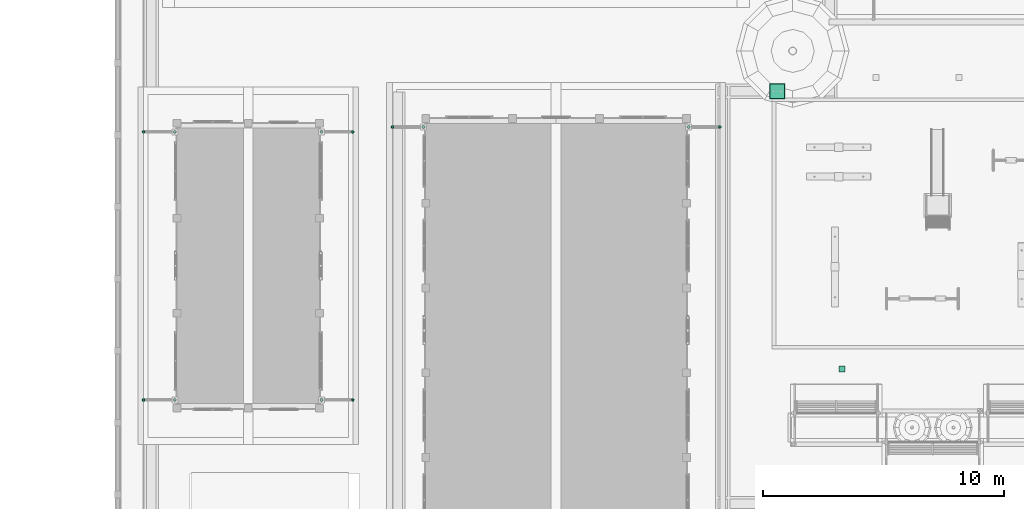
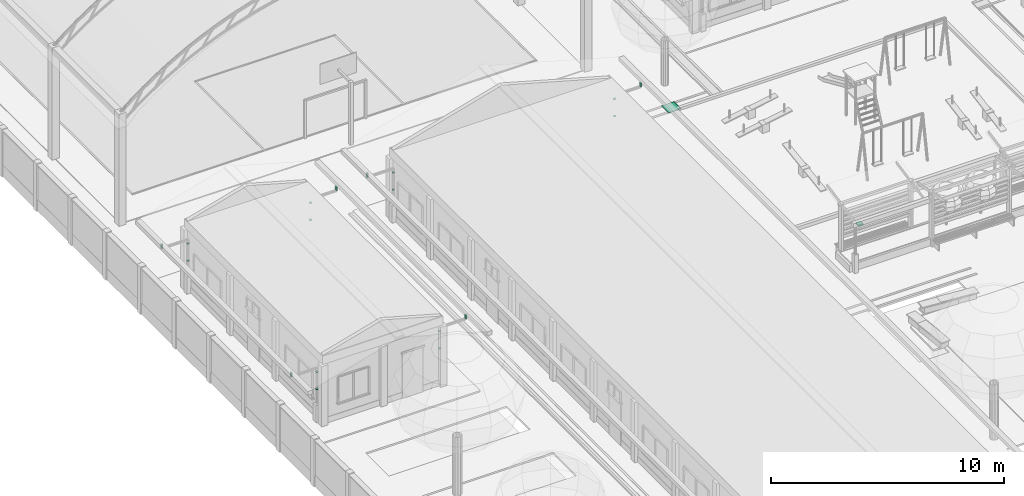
# One storey, part 125 of 177: 18 pipe segments, 2 distribution chamber elements, 1 waste terminal.
"""IFC4 building model written with IfcOpenShell, lengths in metres."""

from ifc_helpers import new_model, si_unit, origin, origin_with_axes, place, context, subcontext, project, spatial, triangles, element, save


model = new_model("IFC4")

# Units and contexts
model_context = context("Model", 3, precision=1e-05, world=origin_with_axes())
body_context = subcontext(model_context, "Body", "Model", "MODEL_VIEW")
ifc_project = project(units=[si_unit("LENGTHUNIT", "METRE"), si_unit("AREAUNIT", "SQUARE_METRE"), si_unit("VOLUMEUNIT", "CUBIC_METRE"), si_unit("PLANEANGLEUNIT", "RADIAN")], contexts=[model_context])

# Site, building, storey
site_placement = place(None, origin_with_axes())
site = spatial("IfcSite", under=ifc_project, at=site_placement, Name="Predio Los Mangos - Morales, San Martín", CompositionType="ELEMENT")
building_placement = place(site_placement, origin())
building = spatial("IfcBuilding", under=site, at=building_placement, Name="Hogar de Refugio Temporal", CompositionType="ELEMENT")
storey_placement = place(building_placement, origin())
storey = spatial("IfcBuildingStorey", under=building, at=storey_placement, Name="NIVEL 1 (NPT +0.00)", CompositionType="ELEMENT", Elevation=0.0)

# Pipe segments
pipe_segment_1_placement = place(storey_placement, origin())
element("IfcPipeSegment", 1, at=pipe_segment_1_placement, inside=storey, Name="montante_boquilla", ObjectType="Montante PVC 4\"", PredefinedType="RIGIDSEGMENT", context=body_context, shape_type="Tessellation", body=[
    triangles([(12.42, 86.905, 3.13), (12.42, 86.905, 2.91), (12.3925, 86.8976, 3.13), (12.3925, 86.8976, 2.91), (12.3724, 86.8775, 3.13), (12.3724, 86.8775, 2.91), (12.365, 86.85, 3.13), (12.365, 86.85, 2.91), (12.3724, 86.8225, 3.13), (12.3724, 86.8225, 2.91), (12.3925, 86.8024, 3.13), (12.3925, 86.8024, 2.91), (12.42, 86.795, 3.13), (12.42, 86.795, 2.91), (12.4475, 86.8024, 3.13), (12.4475, 86.8024, 2.91), (12.4676, 86.8225, 3.13), (12.4676, 86.8225, 2.91), (12.475, 86.85, 3.13), (12.475, 86.85, 2.91), (12.4676, 86.8775, 3.13), (12.4676, 86.8775, 2.91), (12.4475, 86.8976, 3.13), (12.4475, 86.8976, 2.91)], [[1, 2, 4], [1, 4, 3], [3, 4, 6], [3, 6, 5], [5, 6, 8], [5, 8, 7], [7, 8, 10], [7, 10, 9], [9, 10, 12], [9, 12, 11], [11, 12, 14], [11, 14, 13], [13, 14, 16], [13, 16, 15], [15, 16, 18], [15, 18, 17], [17, 18, 20], [17, 20, 19], [19, 20, 22], [19, 22, 21], [6, 4, 2], [2, 24, 22], [22, 20, 18], [18, 16, 14], [14, 12, 10], [10, 8, 6], [6, 2, 22], [22, 18, 14], [14, 10, 6], [22, 14, 6], [21, 22, 24], [21, 24, 23], [23, 24, 2], [23, 2, 1], [23, 1, 3], [3, 5, 7], [7, 9, 11], [11, 13, 15], [15, 17, 19], [19, 21, 23], [23, 3, 7], [7, 11, 15], [15, 19, 23], [7, 15, 23]]),
])
pipe_segment_2_placement = place(storey_placement, origin())
element("IfcPipeSegment", 2, at=pipe_segment_2_placement, inside=storey, Name="montante_abrazadera", ObjectType="Montante PVC 4\"", PredefinedType="RIGIDSEGMENT", context=body_context, shape_type="Tessellation", body=[
    triangles([(13.71, 86.788, 1.8), (13.71, 86.788, 1.84), (13.679, 86.7963, 1.8), (13.679, 86.7963, 1.84), (13.6563, 86.819, 1.8), (13.6563, 86.819, 1.84), (13.648, 86.85, 1.8), (13.648, 86.85, 1.84), (13.6563, 86.881, 1.8), (13.6563, 86.881, 1.84), (13.679, 86.9037, 1.8), (13.679, 86.9037, 1.84), (13.71, 86.912, 1.8), (13.71, 86.912, 1.84), (13.741, 86.9037, 1.8), (13.741, 86.9037, 1.84), (13.7637, 86.881, 1.8), (13.7637, 86.881, 1.84), (13.772, 86.85, 1.8), (13.772, 86.85, 1.84), (13.7637, 86.819, 1.8), (13.7637, 86.819, 1.84), (13.741, 86.7963, 1.8), (13.741, 86.7963, 1.84)], [[1, 2, 4], [1, 4, 3], [3, 4, 6], [3, 6, 5], [5, 6, 8], [5, 8, 7], [7, 8, 10], [7, 10, 9], [9, 10, 12], [9, 12, 11], [11, 12, 14], [11, 14, 13], [13, 14, 16], [13, 16, 15], [15, 16, 18], [15, 18, 17], [17, 18, 20], [17, 20, 19], [19, 20, 22], [19, 22, 21], [6, 4, 2], [2, 24, 22], [22, 20, 18], [18, 16, 14], [14, 12, 10], [10, 8, 6], [6, 2, 22], [22, 18, 14], [14, 10, 6], [22, 14, 6], [21, 22, 24], [21, 24, 23], [23, 24, 2], [23, 2, 1], [23, 1, 3], [3, 5, 7], [7, 9, 11], [11, 13, 15], [15, 17, 19], [19, 21, 23], [23, 3, 7], [7, 11, 15], [15, 19, 23], [7, 15, 23]]),
])
pipe_segment_3_placement = place(storey_placement, origin())
element("IfcPipeSegment", 3, at=pipe_segment_3_placement, inside=storey, Name="montante_abrazadera", ObjectType="Montante PVC 4\"", PredefinedType="RIGIDSEGMENT", context=body_context, shape_type="Tessellation", body=[
    triangles([(13.71, 86.788, 2.7), (13.71, 86.788, 2.74), (13.679, 86.7963, 2.7), (13.679, 86.7963, 2.74), (13.6563, 86.819, 2.7), (13.6563, 86.819, 2.74), (13.648, 86.85, 2.7), (13.648, 86.85, 2.74), (13.6563, 86.881, 2.7), (13.6563, 86.881, 2.74), (13.679, 86.9037, 2.7), (13.679, 86.9037, 2.74), (13.71, 86.912, 2.7), (13.71, 86.912, 2.74), (13.741, 86.9037, 2.7), (13.741, 86.9037, 2.74), (13.7637, 86.881, 2.7), (13.7637, 86.881, 2.74), (13.772, 86.85, 2.7), (13.772, 86.85, 2.74), (13.7637, 86.819, 2.7), (13.7637, 86.819, 2.74), (13.741, 86.7963, 2.7), (13.741, 86.7963, 2.74)], [[1, 2, 4], [1, 4, 3], [3, 4, 6], [3, 6, 5], [5, 6, 8], [5, 8, 7], [7, 8, 10], [7, 10, 9], [9, 10, 12], [9, 12, 11], [11, 12, 14], [11, 14, 13], [13, 14, 16], [13, 16, 15], [15, 16, 18], [15, 18, 17], [17, 18, 20], [17, 20, 19], [19, 20, 22], [19, 22, 21], [6, 4, 2], [2, 24, 22], [22, 20, 18], [18, 16, 14], [14, 12, 10], [10, 8, 6], [6, 2, 22], [22, 18, 14], [14, 10, 6], [22, 14, 6], [21, 22, 24], [21, 24, 23], [23, 24, 2], [23, 2, 1], [23, 1, 3], [3, 5, 7], [7, 9, 11], [11, 13, 15], [15, 17, 19], [19, 21, 23], [23, 3, 7], [7, 11, 15], [15, 19, 23], [7, 15, 23]]),
])
pipe_segment_4_placement = place(storey_placement, origin())
element("IfcPipeSegment", 4, at=pipe_segment_4_placement, inside=storey, Name="montante_boquilla", ObjectType="Montante PVC 4\"", PredefinedType="RIGIDSEGMENT", context=body_context, shape_type="Tessellation", body=[
    triangles([(25.98, 86.905, 3.13), (25.98, 86.905, 2.91), (25.9525, 86.8976, 3.13), (25.9525, 86.8976, 2.91), (25.9324, 86.8775, 3.13), (25.9324, 86.8775, 2.91), (25.925, 86.85, 3.13), (25.925, 86.85, 2.91), (25.9324, 86.8225, 3.13), (25.9324, 86.8225, 2.91), (25.9525, 86.8024, 3.13), (25.9525, 86.8024, 2.91), (25.98, 86.795, 3.13), (25.98, 86.795, 2.91), (26.0075, 86.8024, 3.13), (26.0075, 86.8024, 2.91), (26.0276, 86.8225, 3.13), (26.0276, 86.8225, 2.91), (26.035, 86.85, 3.13), (26.035, 86.85, 2.91), (26.0276, 86.8775, 3.13), (26.0276, 86.8775, 2.91), (26.0075, 86.8976, 3.13), (26.0075, 86.8976, 2.91)], [[1, 2, 4], [1, 4, 3], [3, 4, 6], [3, 6, 5], [5, 6, 8], [5, 8, 7], [7, 8, 10], [7, 10, 9], [9, 10, 12], [9, 12, 11], [11, 12, 14], [11, 14, 13], [13, 14, 16], [13, 16, 15], [15, 16, 18], [15, 18, 17], [17, 18, 20], [17, 20, 19], [19, 20, 22], [19, 22, 21], [6, 4, 2], [2, 24, 22], [22, 20, 18], [18, 16, 14], [14, 12, 10], [10, 8, 6], [6, 2, 22], [22, 18, 14], [14, 10, 6], [22, 14, 6], [21, 22, 24], [21, 24, 23], [23, 24, 2], [23, 2, 1], [23, 1, 3], [3, 5, 7], [7, 9, 11], [11, 13, 15], [15, 17, 19], [19, 21, 23], [23, 3, 7], [7, 11, 15], [15, 19, 23], [7, 15, 23]]),
])
pipe_segment_5_placement = place(storey_placement, origin())
element("IfcPipeSegment", 5, at=pipe_segment_5_placement, inside=storey, Name="montante_abrazadera", ObjectType="Montante PVC 4\"", PredefinedType="RIGIDSEGMENT", context=body_context, shape_type="Tessellation", body=[
    triangles([(24.69, 86.788, 1.8), (24.69, 86.788, 1.84), (24.659, 86.7963, 1.8), (24.659, 86.7963, 1.84), (24.6363, 86.819, 1.8), (24.6363, 86.819, 1.84), (24.628, 86.85, 1.8), (24.628, 86.85, 1.84), (24.6363, 86.881, 1.8), (24.6363, 86.881, 1.84), (24.659, 86.9037, 1.8), (24.659, 86.9037, 1.84), (24.69, 86.912, 1.8), (24.69, 86.912, 1.84), (24.721, 86.9037, 1.8), (24.721, 86.9037, 1.84), (24.7437, 86.881, 1.8), (24.7437, 86.881, 1.84), (24.752, 86.85, 1.8), (24.752, 86.85, 1.84), (24.7437, 86.819, 1.8), (24.7437, 86.819, 1.84), (24.721, 86.7963, 1.8), (24.721, 86.7963, 1.84)], [[1, 2, 4], [1, 4, 3], [3, 4, 6], [3, 6, 5], [5, 6, 8], [5, 8, 7], [7, 8, 10], [7, 10, 9], [9, 10, 12], [9, 12, 11], [11, 12, 14], [11, 14, 13], [13, 14, 16], [13, 16, 15], [15, 16, 18], [15, 18, 17], [17, 18, 20], [17, 20, 19], [19, 20, 22], [19, 22, 21], [6, 4, 2], [2, 24, 22], [22, 20, 18], [18, 16, 14], [14, 12, 10], [10, 8, 6], [6, 2, 22], [22, 18, 14], [14, 10, 6], [22, 14, 6], [21, 22, 24], [21, 24, 23], [23, 24, 2], [23, 2, 1], [23, 1, 3], [3, 5, 7], [7, 9, 11], [11, 13, 15], [15, 17, 19], [19, 21, 23], [23, 3, 7], [7, 11, 15], [15, 19, 23], [7, 15, 23]]),
])
pipe_segment_6_placement = place(storey_placement, origin())
element("IfcPipeSegment", 6, at=pipe_segment_6_placement, inside=storey, Name="montante_abrazadera", ObjectType="Montante PVC 4\"", PredefinedType="RIGIDSEGMENT", context=body_context, shape_type="Tessellation", body=[
    triangles([(24.69, 86.788, 2.7), (24.69, 86.788, 2.74), (24.659, 86.7963, 2.7), (24.659, 86.7963, 2.74), (24.6363, 86.819, 2.7), (24.6363, 86.819, 2.74), (24.628, 86.85, 2.7), (24.628, 86.85, 2.74), (24.6363, 86.881, 2.7), (24.6363, 86.881, 2.74), (24.659, 86.9037, 2.7), (24.659, 86.9037, 2.74), (24.69, 86.912, 2.7), (24.69, 86.912, 2.74), (24.721, 86.9037, 2.7), (24.721, 86.9037, 2.74), (24.7437, 86.881, 2.7), (24.7437, 86.881, 2.74), (24.752, 86.85, 2.7), (24.752, 86.85, 2.74), (24.7437, 86.819, 2.7), (24.7437, 86.819, 2.74), (24.721, 86.7963, 2.7), (24.721, 86.7963, 2.74)], [[1, 2, 4], [1, 4, 3], [3, 4, 6], [3, 6, 5], [5, 6, 8], [5, 8, 7], [7, 8, 10], [7, 10, 9], [9, 10, 12], [9, 12, 11], [11, 12, 14], [11, 14, 13], [13, 14, 16], [13, 16, 15], [15, 16, 18], [15, 18, 17], [17, 18, 20], [17, 20, 19], [19, 20, 22], [19, 22, 21], [6, 4, 2], [2, 24, 22], [22, 20, 18], [18, 16, 14], [14, 12, 10], [10, 8, 6], [6, 2, 22], [22, 18, 14], [14, 10, 6], [22, 14, 6], [21, 22, 24], [21, 24, 23], [23, 24, 2], [23, 2, 1], [23, 1, 3], [3, 5, 7], [7, 9, 11], [11, 13, 15], [15, 17, 19], [19, 21, 23], [23, 3, 7], [7, 11, 15], [15, 19, 23], [7, 15, 23]]),
])
pipe_segment_7_placement = place(storey_placement, origin())
element("IfcPipeSegment", 7, at=pipe_segment_7_placement, inside=storey, Name="montante_boquilla", ObjectType="Montante PVC 4\"", PredefinedType="RIGIDSEGMENT", context=body_context, shape_type="Tessellation", body=[
    triangles([(2.12, 75.605, 3.13), (2.12, 75.605, 2.91), (2.0925, 75.5976, 3.13), (2.0925, 75.5976, 2.91), (2.0724, 75.5775, 3.13), (2.0724, 75.5775, 2.91), (2.065, 75.55, 3.13), (2.065, 75.55, 2.91), (2.0724, 75.5225, 3.13), (2.0724, 75.5225, 2.91), (2.0925, 75.5024, 3.13), (2.0925, 75.5024, 2.91), (2.12, 75.495, 3.13), (2.12, 75.495, 2.91), (2.1475, 75.5024, 3.13), (2.1475, 75.5024, 2.91), (2.1676, 75.5225, 3.13), (2.1676, 75.5225, 2.91), (2.175, 75.55, 3.13), (2.175, 75.55, 2.91), (2.1676, 75.5775, 3.13), (2.1676, 75.5775, 2.91), (2.1475, 75.5976, 3.13), (2.1475, 75.5976, 2.91)], [[1, 2, 4], [1, 4, 3], [3, 4, 6], [3, 6, 5], [5, 6, 8], [5, 8, 7], [7, 8, 10], [7, 10, 9], [9, 10, 12], [9, 12, 11], [11, 12, 14], [11, 14, 13], [13, 14, 16], [13, 16, 15], [15, 16, 18], [15, 18, 17], [17, 18, 20], [17, 20, 19], [19, 20, 22], [19, 22, 21], [6, 4, 2], [2, 24, 22], [22, 20, 18], [18, 16, 14], [14, 12, 10], [10, 8, 6], [6, 2, 22], [22, 18, 14], [14, 10, 6], [22, 14, 6], [21, 22, 24], [21, 24, 23], [23, 24, 2], [23, 2, 1], [23, 1, 3], [3, 5, 7], [7, 9, 11], [11, 13, 15], [15, 17, 19], [19, 21, 23], [23, 3, 7], [7, 11, 15], [15, 19, 23], [7, 15, 23]]),
])
pipe_segment_8_placement = place(storey_placement, origin())
element("IfcPipeSegment", 8, at=pipe_segment_8_placement, inside=storey, Name="montante_abrazadera", ObjectType="Montante PVC 4\"", PredefinedType="RIGIDSEGMENT", context=body_context, shape_type="Tessellation", body=[
    triangles([(3.41, 75.488, 1.8), (3.41, 75.488, 1.84), (3.379, 75.4963, 1.8), (3.379, 75.4963, 1.84), (3.3563, 75.519, 1.8), (3.3563, 75.519, 1.84), (3.348, 75.55, 1.8), (3.348, 75.55, 1.84), (3.3563, 75.581, 1.8), (3.3563, 75.581, 1.84), (3.379, 75.6037, 1.8), (3.379, 75.6037, 1.84), (3.41, 75.612, 1.8), (3.41, 75.612, 1.84), (3.441, 75.6037, 1.8), (3.441, 75.6037, 1.84), (3.4637, 75.581, 1.8), (3.4637, 75.581, 1.84), (3.472, 75.55, 1.8), (3.472, 75.55, 1.84), (3.4637, 75.519, 1.8), (3.4637, 75.519, 1.84), (3.441, 75.4963, 1.8), (3.441, 75.4963, 1.84)], [[1, 2, 4], [1, 4, 3], [3, 4, 6], [3, 6, 5], [5, 6, 8], [5, 8, 7], [7, 8, 10], [7, 10, 9], [9, 10, 12], [9, 12, 11], [11, 12, 14], [11, 14, 13], [13, 14, 16], [13, 16, 15], [15, 16, 18], [15, 18, 17], [17, 18, 20], [17, 20, 19], [19, 20, 22], [19, 22, 21], [6, 4, 2], [2, 24, 22], [22, 20, 18], [18, 16, 14], [14, 12, 10], [10, 8, 6], [6, 2, 22], [22, 18, 14], [14, 10, 6], [22, 14, 6], [21, 22, 24], [21, 24, 23], [23, 24, 2], [23, 2, 1], [23, 1, 3], [3, 5, 7], [7, 9, 11], [11, 13, 15], [15, 17, 19], [19, 21, 23], [23, 3, 7], [7, 11, 15], [15, 19, 23], [7, 15, 23]]),
])
pipe_segment_9_placement = place(storey_placement, origin())
element("IfcPipeSegment", 9, at=pipe_segment_9_placement, inside=storey, Name="montante_abrazadera", ObjectType="Montante PVC 4\"", PredefinedType="RIGIDSEGMENT", context=body_context, shape_type="Tessellation", body=[
    triangles([(3.41, 75.488, 2.7), (3.41, 75.488, 2.74), (3.379, 75.4963, 2.7), (3.379, 75.4963, 2.74), (3.3563, 75.519, 2.7), (3.3563, 75.519, 2.74), (3.348, 75.55, 2.7), (3.348, 75.55, 2.74), (3.3563, 75.581, 2.7), (3.3563, 75.581, 2.74), (3.379, 75.6037, 2.7), (3.379, 75.6037, 2.74), (3.41, 75.612, 2.7), (3.41, 75.612, 2.74), (3.441, 75.6037, 2.7), (3.441, 75.6037, 2.74), (3.4637, 75.581, 2.7), (3.4637, 75.581, 2.74), (3.472, 75.55, 2.7), (3.472, 75.55, 2.74), (3.4637, 75.519, 2.7), (3.4637, 75.519, 2.74), (3.441, 75.4963, 2.7), (3.441, 75.4963, 2.74)], [[1, 2, 4], [1, 4, 3], [3, 4, 6], [3, 6, 5], [5, 6, 8], [5, 8, 7], [7, 8, 10], [7, 10, 9], [9, 10, 12], [9, 12, 11], [11, 12, 14], [11, 14, 13], [13, 14, 16], [13, 16, 15], [15, 16, 18], [15, 18, 17], [17, 18, 20], [17, 20, 19], [19, 20, 22], [19, 22, 21], [6, 4, 2], [2, 24, 22], [22, 20, 18], [18, 16, 14], [14, 12, 10], [10, 8, 6], [6, 2, 22], [22, 18, 14], [14, 10, 6], [22, 14, 6], [21, 22, 24], [21, 24, 23], [23, 24, 2], [23, 2, 1], [23, 1, 3], [3, 5, 7], [7, 9, 11], [11, 13, 15], [15, 17, 19], [19, 21, 23], [23, 3, 7], [7, 11, 15], [15, 19, 23], [7, 15, 23]]),
])
pipe_segment_10_placement = place(storey_placement, origin())
element("IfcPipeSegment", 10, at=pipe_segment_10_placement, inside=storey, Name="montante_boquilla", ObjectType="Montante PVC 4\"", PredefinedType="RIGIDSEGMENT", context=body_context, shape_type="Tessellation", body=[
    triangles([(2.12, 86.705, 3.13), (2.12, 86.705, 2.91), (2.0925, 86.6976, 3.13), (2.0925, 86.6976, 2.91), (2.0724, 86.6775, 3.13), (2.0724, 86.6775, 2.91), (2.065, 86.65, 3.13), (2.065, 86.65, 2.91), (2.0724, 86.6225, 3.13), (2.0724, 86.6225, 2.91), (2.0925, 86.6024, 3.13), (2.0925, 86.6024, 2.91), (2.12, 86.595, 3.13), (2.12, 86.595, 2.91), (2.1475, 86.6024, 3.13), (2.1475, 86.6024, 2.91), (2.1676, 86.6225, 3.13), (2.1676, 86.6225, 2.91), (2.175, 86.65, 3.13), (2.175, 86.65, 2.91), (2.1676, 86.6775, 3.13), (2.1676, 86.6775, 2.91), (2.1475, 86.6976, 3.13), (2.1475, 86.6976, 2.91)], [[1, 2, 4], [1, 4, 3], [3, 4, 6], [3, 6, 5], [5, 6, 8], [5, 8, 7], [7, 8, 10], [7, 10, 9], [9, 10, 12], [9, 12, 11], [11, 12, 14], [11, 14, 13], [13, 14, 16], [13, 16, 15], [15, 16, 18], [15, 18, 17], [17, 18, 20], [17, 20, 19], [19, 20, 22], [19, 22, 21], [6, 4, 2], [2, 24, 22], [22, 20, 18], [18, 16, 14], [14, 12, 10], [10, 8, 6], [6, 2, 22], [22, 18, 14], [14, 10, 6], [22, 14, 6], [21, 22, 24], [21, 24, 23], [23, 24, 2], [23, 2, 1], [23, 1, 3], [3, 5, 7], [7, 9, 11], [11, 13, 15], [15, 17, 19], [19, 21, 23], [23, 3, 7], [7, 11, 15], [15, 19, 23], [7, 15, 23]]),
])
pipe_segment_11_placement = place(storey_placement, origin())
element("IfcPipeSegment", 11, at=pipe_segment_11_placement, inside=storey, Name="montante_abrazadera", ObjectType="Montante PVC 4\"", PredefinedType="RIGIDSEGMENT", context=body_context, shape_type="Tessellation", body=[
    triangles([(3.41, 86.588, 1.8), (3.41, 86.588, 1.84), (3.379, 86.5963, 1.8), (3.379, 86.5963, 1.84), (3.3563, 86.619, 1.8), (3.3563, 86.619, 1.84), (3.348, 86.65, 1.8), (3.348, 86.65, 1.84), (3.3563, 86.681, 1.8), (3.3563, 86.681, 1.84), (3.379, 86.7037, 1.8), (3.379, 86.7037, 1.84), (3.41, 86.712, 1.8), (3.41, 86.712, 1.84), (3.441, 86.7037, 1.8), (3.441, 86.7037, 1.84), (3.4637, 86.681, 1.8), (3.4637, 86.681, 1.84), (3.472, 86.65, 1.8), (3.472, 86.65, 1.84), (3.4637, 86.619, 1.8), (3.4637, 86.619, 1.84), (3.441, 86.5963, 1.8), (3.441, 86.5963, 1.84)], [[1, 2, 4], [1, 4, 3], [3, 4, 6], [3, 6, 5], [5, 6, 8], [5, 8, 7], [7, 8, 10], [7, 10, 9], [9, 10, 12], [9, 12, 11], [11, 12, 14], [11, 14, 13], [13, 14, 16], [13, 16, 15], [15, 16, 18], [15, 18, 17], [17, 18, 20], [17, 20, 19], [19, 20, 22], [19, 22, 21], [6, 4, 2], [2, 24, 22], [22, 20, 18], [18, 16, 14], [14, 12, 10], [10, 8, 6], [6, 2, 22], [22, 18, 14], [14, 10, 6], [22, 14, 6], [21, 22, 24], [21, 24, 23], [23, 24, 2], [23, 2, 1], [23, 1, 3], [3, 5, 7], [7, 9, 11], [11, 13, 15], [15, 17, 19], [19, 21, 23], [23, 3, 7], [7, 11, 15], [15, 19, 23], [7, 15, 23]]),
])
pipe_segment_12_placement = place(storey_placement, origin())
element("IfcPipeSegment", 12, at=pipe_segment_12_placement, inside=storey, Name="montante_abrazadera", ObjectType="Montante PVC 4\"", PredefinedType="RIGIDSEGMENT", context=body_context, shape_type="Tessellation", body=[
    triangles([(3.41, 86.588, 2.7), (3.41, 86.588, 2.74), (3.379, 86.5963, 2.7), (3.379, 86.5963, 2.74), (3.3563, 86.619, 2.7), (3.3563, 86.619, 2.74), (3.348, 86.65, 2.7), (3.348, 86.65, 2.74), (3.3563, 86.681, 2.7), (3.3563, 86.681, 2.74), (3.379, 86.7037, 2.7), (3.379, 86.7037, 2.74), (3.41, 86.712, 2.7), (3.41, 86.712, 2.74), (3.441, 86.7037, 2.7), (3.441, 86.7037, 2.74), (3.4637, 86.681, 2.7), (3.4637, 86.681, 2.74), (3.472, 86.65, 2.7), (3.472, 86.65, 2.74), (3.4637, 86.619, 2.7), (3.4637, 86.619, 2.74), (3.441, 86.5963, 2.7), (3.441, 86.5963, 2.74)], [[1, 2, 4], [1, 4, 3], [3, 4, 6], [3, 6, 5], [5, 6, 8], [5, 8, 7], [7, 8, 10], [7, 10, 9], [9, 10, 12], [9, 12, 11], [11, 12, 14], [11, 14, 13], [13, 14, 16], [13, 16, 15], [15, 16, 18], [15, 18, 17], [17, 18, 20], [17, 20, 19], [19, 20, 22], [19, 22, 21], [6, 4, 2], [2, 24, 22], [22, 20, 18], [18, 16, 14], [14, 12, 10], [10, 8, 6], [6, 2, 22], [22, 18, 14], [14, 10, 6], [22, 14, 6], [21, 22, 24], [21, 24, 23], [23, 24, 2], [23, 2, 1], [23, 1, 3], [3, 5, 7], [7, 9, 11], [11, 13, 15], [15, 17, 19], [19, 21, 23], [23, 3, 7], [7, 11, 15], [15, 19, 23], [7, 15, 23]]),
])
pipe_segment_13_placement = place(storey_placement, origin())
element("IfcPipeSegment", 13, at=pipe_segment_13_placement, inside=storey, Name="montante_boquilla", ObjectType="Montante PVC 4\"", PredefinedType="RIGIDSEGMENT", context=body_context, shape_type="Tessellation", body=[
    triangles([(10.78, 75.605, 3.13), (10.78, 75.605, 2.91), (10.7525, 75.5976, 3.13), (10.7525, 75.5976, 2.91), (10.7324, 75.5775, 3.13), (10.7324, 75.5775, 2.91), (10.725, 75.55, 3.13), (10.725, 75.55, 2.91), (10.7324, 75.5225, 3.13), (10.7324, 75.5225, 2.91), (10.7525, 75.5024, 3.13), (10.7525, 75.5024, 2.91), (10.78, 75.495, 3.13), (10.78, 75.495, 2.91), (10.8075, 75.5024, 3.13), (10.8075, 75.5024, 2.91), (10.8276, 75.5225, 3.13), (10.8276, 75.5225, 2.91), (10.835, 75.55, 3.13), (10.835, 75.55, 2.91), (10.8276, 75.5775, 3.13), (10.8276, 75.5775, 2.91), (10.8075, 75.5976, 3.13), (10.8075, 75.5976, 2.91)], [[1, 2, 4], [1, 4, 3], [3, 4, 6], [3, 6, 5], [5, 6, 8], [5, 8, 7], [7, 8, 10], [7, 10, 9], [9, 10, 12], [9, 12, 11], [11, 12, 14], [11, 14, 13], [13, 14, 16], [13, 16, 15], [15, 16, 18], [15, 18, 17], [17, 18, 20], [17, 20, 19], [19, 20, 22], [19, 22, 21], [6, 4, 2], [2, 24, 22], [22, 20, 18], [18, 16, 14], [14, 12, 10], [10, 8, 6], [6, 2, 22], [22, 18, 14], [14, 10, 6], [22, 14, 6], [21, 22, 24], [21, 24, 23], [23, 24, 2], [23, 2, 1], [23, 1, 3], [3, 5, 7], [7, 9, 11], [11, 13, 15], [15, 17, 19], [19, 21, 23], [23, 3, 7], [7, 11, 15], [15, 19, 23], [7, 15, 23]]),
])
pipe_segment_14_placement = place(storey_placement, origin())
element("IfcPipeSegment", 14, at=pipe_segment_14_placement, inside=storey, Name="montante_abrazadera", ObjectType="Montante PVC 4\"", PredefinedType="RIGIDSEGMENT", context=body_context, shape_type="Tessellation", body=[
    triangles([(9.49, 75.488, 1.8), (9.49, 75.488, 1.84), (9.459, 75.4963, 1.8), (9.459, 75.4963, 1.84), (9.4363, 75.519, 1.8), (9.4363, 75.519, 1.84), (9.428, 75.55, 1.8), (9.428, 75.55, 1.84), (9.4363, 75.581, 1.8), (9.4363, 75.581, 1.84), (9.459, 75.6037, 1.8), (9.459, 75.6037, 1.84), (9.49, 75.612, 1.8), (9.49, 75.612, 1.84), (9.521, 75.6037, 1.8), (9.521, 75.6037, 1.84), (9.5437, 75.581, 1.8), (9.5437, 75.581, 1.84), (9.552, 75.55, 1.8), (9.552, 75.55, 1.84), (9.5437, 75.519, 1.8), (9.5437, 75.519, 1.84), (9.521, 75.4963, 1.8), (9.521, 75.4963, 1.84)], [[1, 2, 4], [1, 4, 3], [3, 4, 6], [3, 6, 5], [5, 6, 8], [5, 8, 7], [7, 8, 10], [7, 10, 9], [9, 10, 12], [9, 12, 11], [11, 12, 14], [11, 14, 13], [13, 14, 16], [13, 16, 15], [15, 16, 18], [15, 18, 17], [17, 18, 20], [17, 20, 19], [19, 20, 22], [19, 22, 21], [6, 4, 2], [2, 24, 22], [22, 20, 18], [18, 16, 14], [14, 12, 10], [10, 8, 6], [6, 2, 22], [22, 18, 14], [14, 10, 6], [22, 14, 6], [21, 22, 24], [21, 24, 23], [23, 24, 2], [23, 2, 1], [23, 1, 3], [3, 5, 7], [7, 9, 11], [11, 13, 15], [15, 17, 19], [19, 21, 23], [23, 3, 7], [7, 11, 15], [15, 19, 23], [7, 15, 23]]),
])
pipe_segment_15_placement = place(storey_placement, origin())
element("IfcPipeSegment", 15, at=pipe_segment_15_placement, inside=storey, Name="montante_abrazadera", ObjectType="Montante PVC 4\"", PredefinedType="RIGIDSEGMENT", context=body_context, shape_type="Tessellation", body=[
    triangles([(9.49, 75.488, 2.7), (9.49, 75.488, 2.74), (9.459, 75.4963, 2.7), (9.459, 75.4963, 2.74), (9.4363, 75.519, 2.7), (9.4363, 75.519, 2.74), (9.428, 75.55, 2.7), (9.428, 75.55, 2.74), (9.4363, 75.581, 2.7), (9.4363, 75.581, 2.74), (9.459, 75.6037, 2.7), (9.459, 75.6037, 2.74), (9.49, 75.612, 2.7), (9.49, 75.612, 2.74), (9.521, 75.6037, 2.7), (9.521, 75.6037, 2.74), (9.5437, 75.581, 2.7), (9.5437, 75.581, 2.74), (9.552, 75.55, 2.7), (9.552, 75.55, 2.74), (9.5437, 75.519, 2.7), (9.5437, 75.519, 2.74), (9.521, 75.4963, 2.7), (9.521, 75.4963, 2.74)], [[1, 2, 4], [1, 4, 3], [3, 4, 6], [3, 6, 5], [5, 6, 8], [5, 8, 7], [7, 8, 10], [7, 10, 9], [9, 10, 12], [9, 12, 11], [11, 12, 14], [11, 14, 13], [13, 14, 16], [13, 16, 15], [15, 16, 18], [15, 18, 17], [17, 18, 20], [17, 20, 19], [19, 20, 22], [19, 22, 21], [6, 4, 2], [2, 24, 22], [22, 20, 18], [18, 16, 14], [14, 12, 10], [10, 8, 6], [6, 2, 22], [22, 18, 14], [14, 10, 6], [22, 14, 6], [21, 22, 24], [21, 24, 23], [23, 24, 2], [23, 2, 1], [23, 1, 3], [3, 5, 7], [7, 9, 11], [11, 13, 15], [15, 17, 19], [19, 21, 23], [23, 3, 7], [7, 11, 15], [15, 19, 23], [7, 15, 23]]),
])
pipe_segment_16_placement = place(storey_placement, origin())
element("IfcPipeSegment", 16, at=pipe_segment_16_placement, inside=storey, Name="montante_boquilla", ObjectType="Montante PVC 4\"", PredefinedType="RIGIDSEGMENT", context=body_context, shape_type="Tessellation", body=[
    triangles([(10.78, 86.705, 3.13), (10.78, 86.705, 2.91), (10.7525, 86.6976, 3.13), (10.7525, 86.6976, 2.91), (10.7324, 86.6775, 3.13), (10.7324, 86.6775, 2.91), (10.725, 86.65, 3.13), (10.725, 86.65, 2.91), (10.7324, 86.6225, 3.13), (10.7324, 86.6225, 2.91), (10.7525, 86.6024, 3.13), (10.7525, 86.6024, 2.91), (10.78, 86.595, 3.13), (10.78, 86.595, 2.91), (10.8075, 86.6024, 3.13), (10.8075, 86.6024, 2.91), (10.8276, 86.6225, 3.13), (10.8276, 86.6225, 2.91), (10.835, 86.65, 3.13), (10.835, 86.65, 2.91), (10.8276, 86.6775, 3.13), (10.8276, 86.6775, 2.91), (10.8075, 86.6976, 3.13), (10.8075, 86.6976, 2.91)], [[1, 2, 4], [1, 4, 3], [3, 4, 6], [3, 6, 5], [5, 6, 8], [5, 8, 7], [7, 8, 10], [7, 10, 9], [9, 10, 12], [9, 12, 11], [11, 12, 14], [11, 14, 13], [13, 14, 16], [13, 16, 15], [15, 16, 18], [15, 18, 17], [17, 18, 20], [17, 20, 19], [19, 20, 22], [19, 22, 21], [6, 4, 2], [2, 24, 22], [22, 20, 18], [18, 16, 14], [14, 12, 10], [10, 8, 6], [6, 2, 22], [22, 18, 14], [14, 10, 6], [22, 14, 6], [21, 22, 24], [21, 24, 23], [23, 24, 2], [23, 2, 1], [23, 1, 3], [3, 5, 7], [7, 9, 11], [11, 13, 15], [15, 17, 19], [19, 21, 23], [23, 3, 7], [7, 11, 15], [15, 19, 23], [7, 15, 23]]),
])
pipe_segment_17_placement = place(storey_placement, origin())
element("IfcPipeSegment", 17, at=pipe_segment_17_placement, inside=storey, Name="montante_abrazadera", ObjectType="Montante PVC 4\"", PredefinedType="RIGIDSEGMENT", context=body_context, shape_type="Tessellation", body=[
    triangles([(9.49, 86.588, 1.8), (9.49, 86.588, 1.84), (9.459, 86.5963, 1.8), (9.459, 86.5963, 1.84), (9.4363, 86.619, 1.8), (9.4363, 86.619, 1.84), (9.428, 86.65, 1.8), (9.428, 86.65, 1.84), (9.4363, 86.681, 1.8), (9.4363, 86.681, 1.84), (9.459, 86.7037, 1.8), (9.459, 86.7037, 1.84), (9.49, 86.712, 1.8), (9.49, 86.712, 1.84), (9.521, 86.7037, 1.8), (9.521, 86.7037, 1.84), (9.5437, 86.681, 1.8), (9.5437, 86.681, 1.84), (9.552, 86.65, 1.8), (9.552, 86.65, 1.84), (9.5437, 86.619, 1.8), (9.5437, 86.619, 1.84), (9.521, 86.5963, 1.8), (9.521, 86.5963, 1.84)], [[1, 2, 4], [1, 4, 3], [3, 4, 6], [3, 6, 5], [5, 6, 8], [5, 8, 7], [7, 8, 10], [7, 10, 9], [9, 10, 12], [9, 12, 11], [11, 12, 14], [11, 14, 13], [13, 14, 16], [13, 16, 15], [15, 16, 18], [15, 18, 17], [17, 18, 20], [17, 20, 19], [19, 20, 22], [19, 22, 21], [6, 4, 2], [2, 24, 22], [22, 20, 18], [18, 16, 14], [14, 12, 10], [10, 8, 6], [6, 2, 22], [22, 18, 14], [14, 10, 6], [22, 14, 6], [21, 22, 24], [21, 24, 23], [23, 24, 2], [23, 2, 1], [23, 1, 3], [3, 5, 7], [7, 9, 11], [11, 13, 15], [15, 17, 19], [19, 21, 23], [23, 3, 7], [7, 11, 15], [15, 19, 23], [7, 15, 23]]),
])
pipe_segment_18_placement = place(storey_placement, origin())
element("IfcPipeSegment", 18, at=pipe_segment_18_placement, inside=storey, Name="montante_abrazadera", ObjectType="Montante PVC 4\"", PredefinedType="RIGIDSEGMENT", context=body_context, shape_type="Tessellation", body=[
    triangles([(9.49, 86.588, 2.7), (9.49, 86.588, 2.74), (9.459, 86.5963, 2.7), (9.459, 86.5963, 2.74), (9.4363, 86.619, 2.7), (9.4363, 86.619, 2.74), (9.428, 86.65, 2.7), (9.428, 86.65, 2.74), (9.4363, 86.681, 2.7), (9.4363, 86.681, 2.74), (9.459, 86.7037, 2.7), (9.459, 86.7037, 2.74), (9.49, 86.712, 2.7), (9.49, 86.712, 2.74), (9.521, 86.7037, 2.7), (9.521, 86.7037, 2.74), (9.5437, 86.681, 2.7), (9.5437, 86.681, 2.74), (9.552, 86.65, 2.7), (9.552, 86.65, 2.74), (9.5437, 86.619, 2.7), (9.5437, 86.619, 2.74), (9.521, 86.5963, 2.7), (9.521, 86.5963, 2.74)], [[1, 2, 4], [1, 4, 3], [3, 4, 6], [3, 6, 5], [5, 6, 8], [5, 8, 7], [7, 8, 10], [7, 10, 9], [9, 10, 12], [9, 12, 11], [11, 12, 14], [11, 14, 13], [13, 14, 16], [13, 16, 15], [15, 16, 18], [15, 18, 17], [17, 18, 20], [17, 20, 19], [19, 20, 22], [19, 22, 21], [6, 4, 2], [2, 24, 22], [22, 20, 18], [18, 16, 14], [14, 12, 10], [10, 8, 6], [6, 2, 22], [22, 18, 14], [14, 10, 6], [22, 14, 6], [21, 22, 24], [21, 24, 23], [23, 24, 2], [23, 2, 1], [23, 1, 3], [3, 5, 7], [7, 9, 11], [11, 13, 15], [15, 17, 19], [19, 21, 23], [23, 3, 7], [7, 11, 15], [15, 19, 23], [7, 15, 23]]),
])

# Waste terminal
waste_terminal_placement = place(storey_placement, origin())
element("IfcWasteTerminal", 19, at=waste_terminal_placement, inside=storey, Name="sumidero_fondo", ObjectType="Sumidero con rejilla", PredefinedType="GULLYTRAP", context=body_context, shape_type="Tessellation", body=[
    triangles([(30.922, 76.702, -0.02), (31.172, 76.702, -0.02), (31.172, 76.952, -0.02), (30.922, 76.952, -0.02), (30.922, 76.702, 0.064), (31.172, 76.702, 0.064), (31.172, 76.952, 0.064), (30.922, 76.952, 0.064)], [[1, 4, 3], [1, 3, 2], [5, 6, 7], [5, 7, 8], [1, 2, 6], [1, 6, 5], [2, 3, 7], [2, 7, 6], [3, 4, 8], [3, 8, 7], [4, 1, 5], [4, 5, 8]]),
])

# Distribution chamber elements
distribution_chamber_element_1_placement = place(storey_placement, origin())
element("IfcDistributionChamberElement", 20, at=distribution_chamber_element_1_placement, inside=storey, Name="tapa_insp_junta", ObjectType="Tapa de inspección", PredefinedType="INSPECTIONCHAMBER", context=body_context, shape_type="Tessellation", body=[
    triangles([(28.035, 88.009, 0.082), (28.675, 88.009, 0.082), (28.675, 88.649, 0.082), (28.035, 88.649, 0.082), (28.035, 88.009, 0.096), (28.675, 88.009, 0.096), (28.675, 88.649, 0.096), (28.035, 88.649, 0.096)], [[1, 4, 3], [1, 3, 2], [5, 6, 7], [5, 7, 8], [1, 2, 6], [1, 6, 5], [2, 3, 7], [2, 7, 6], [3, 4, 8], [3, 8, 7], [4, 1, 5], [4, 5, 8]]),
])
distribution_chamber_element_2_placement = place(storey_placement, origin())
element("IfcDistributionChamberElement", 21, at=distribution_chamber_element_2_placement, inside=storey, Name="tapa_inspeccion", ObjectType="Tapa de inspección", PredefinedType="INSPECTIONCHAMBER", context=body_context, shape_type="Tessellation", body=[
    triangles([(28.055, 88.029, 0.082), (28.655, 88.029, 0.082), (28.655, 88.629, 0.082), (28.055, 88.629, 0.082), (28.055, 88.029, 0.104), (28.655, 88.029, 0.104), (28.655, 88.629, 0.104), (28.055, 88.629, 0.104)], [[1, 4, 3], [1, 3, 2], [5, 6, 7], [5, 7, 8], [1, 2, 6], [1, 6, 5], [2, 3, 7], [2, 7, 6], [3, 4, 8], [3, 8, 7], [4, 1, 5], [4, 5, 8]]),
])

save(model, "model.ifc")
